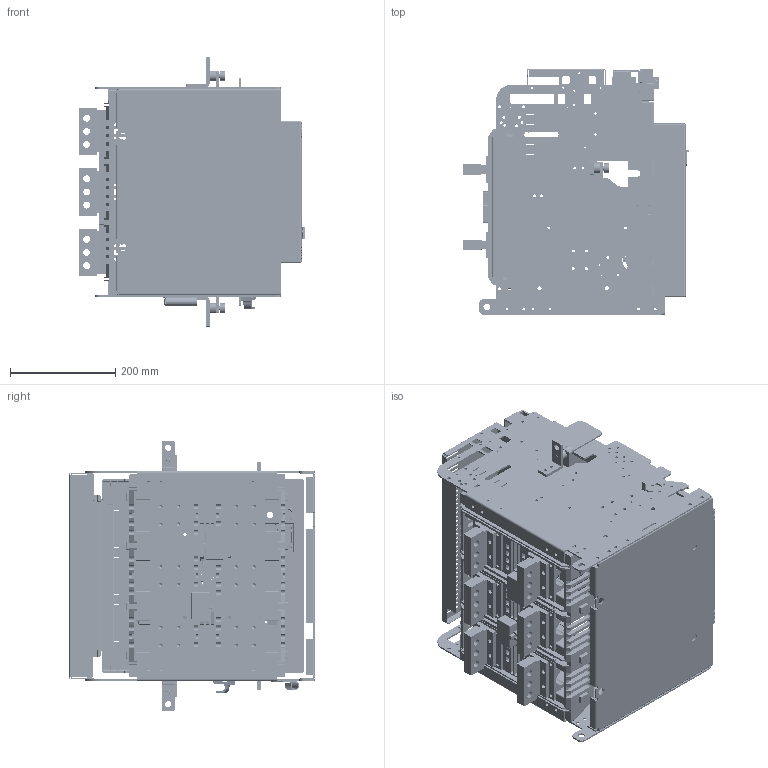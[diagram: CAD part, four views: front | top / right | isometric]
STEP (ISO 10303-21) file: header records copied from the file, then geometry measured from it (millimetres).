
FILE_DESCRIPTION((''),'2;1');
FILE_NAME('B323H_ASM','2017-01-31T',('HHI'),(''),'PRO/ENGINEER BY PARAMETRIC TECHNOLOGY CORPORATION, 2012453','PRO/ENGINEER BY PARAMETRIC TECHNOLOGY CORPORATION, 2012453','');
FILE_SCHEMA(('CONFIG_CONTROL_DESIGN'));
Products named in the file (33): MAIN_SC-DR-FRAME_L; MAIN_SC_DR_BASE_403; MAIN_SC-DR-FRAME_R; SC_CO_JACK_DFC_403; MAIN_SC-CONTROL_JACK-CRADLE; SC-MAIN-TERMINAL-MOLD-403; ISOLATING_CONDUCTOR_32HV_L75; TERMINAL_B32; SC_CONTROL_JACK; SC_MAIN_FRONT_COVER40_2011_1215; SC_DR_DEVICE_COVER2; SC_DR_LOCK_PUSH_BUTTON; SC_MANUAL_POSITION_LOCK; SC-DR-INDICATOR_SAMPLE; DR_COVER_SAMPLE_ASM; MAIN_SC-OCR-COVER-U-DD-RE; MAIN_SC-OCR-PROTECTION-COVER-RE; MAIN_SC-OCR-LOWER-COVER-RE; OCR_COVER_SAMPLE_ASM; SC-CLOSE-BUTTON; SC-OPEN-BUTTON; N_CHARGE_HANDLE; COVER403_ASSY_ASM; U_ARC_SHIELD_403; SC-FIX-BLOCK-L; FIX_BODY_EXTRA; FIX_BLOCK_CRADLE; BOLT; FIX_BODY_ASM_L_ASM; SC-FIX-BLOCK-R; SC-FIX-BLOCK-SUP-R; FIX_BODY_ASM_R_ASM; B323H_ASM
Assembly tree (44 placements, depth 4):
  B323H_ASM
    MAIN_SC-DR-FRAME_L
    MAIN_SC_DR_BASE_403
    MAIN_SC-DR-FRAME_R
    SC_CO_JACK_DFC_403
    MAIN_SC-CONTROL_JACK-CRADLE
    SC-MAIN-TERMINAL-MOLD-403
    ISOLATING_CONDUCTOR_32HV_L75  x6
    TERMINAL_B32  x6
    COVER403_ASSY_ASM
      SC_CONTROL_JACK
      SC_MAIN_FRONT_COVER40_2011_1215
      DR_COVER_SAMPLE_ASM
        SC_DR_DEVICE_COVER2
        SC_DR_LOCK_PUSH_BUTTON
        SC_MANUAL_POSITION_LOCK
        SC-DR-INDICATOR_SAMPLE
      OCR_COVER_SAMPLE_ASM
        MAIN_SC-OCR-COVER-U-DD-RE
        MAIN_SC-OCR-PROTECTION-COVER-RE
        MAIN_SC-OCR-LOWER-COVER-RE
      SC-CLOSE-BUTTON
      SC-OPEN-BUTTON
      N_CHARGE_HANDLE
    U_ARC_SHIELD_403
    FIX_BODY_ASM_L_ASM
      SC-FIX-BLOCK-L
      FIX_BODY_EXTRA
      FIX_BLOCK_CRADLE
      BOLT
    FIX_BODY_ASM_R_ASM
      SC-FIX-BLOCK-R
      SC-FIX-BLOCK-SUP-R
      FIX_BLOCK_CRADLE
      BOLT
Bounding box: 430.03 x 466.35 x 511 mm (x, y, z)
Volume: 6003000.7 mm3; surface area: 3422889.3 mm2
Topology: 41 solids, 43 shells, 14423 faces, 42240 edges, 27552 vertices
Faces by surface type: plane 11144, cylinder 2721, extrusion 181, torus 172, cone 85, bspline 62, sphere 58
Entity records: 461662 total; most frequent: CARTESIAN_POINT 89889, ORIENTED_EDGE 80728, DIRECTION 71878, EDGE_CURVE 40364, VECTOR 34992, LINE 34811, VERTEX_POINT 26360, AXIS2_PLACEMENT_3D 18443
